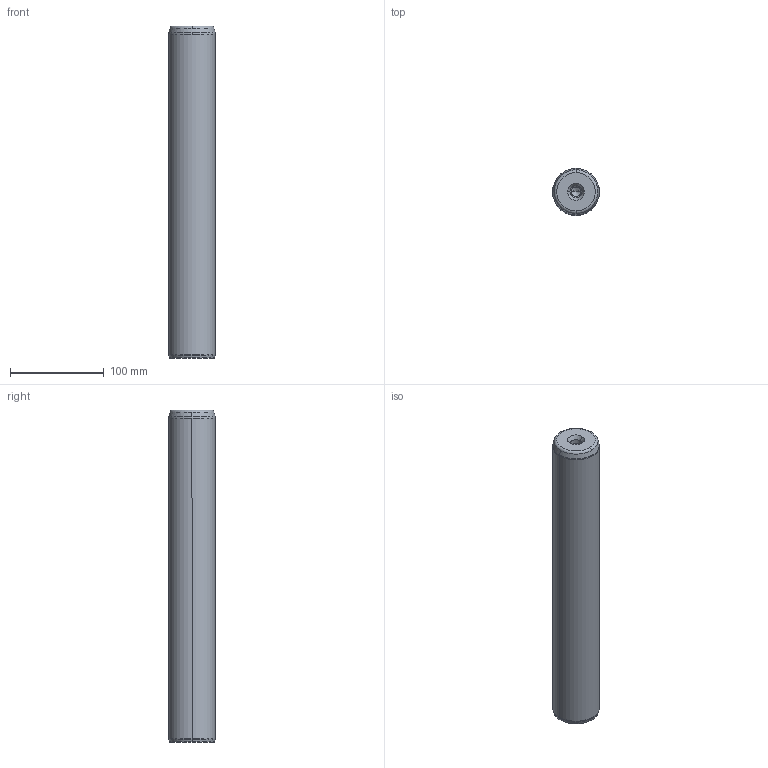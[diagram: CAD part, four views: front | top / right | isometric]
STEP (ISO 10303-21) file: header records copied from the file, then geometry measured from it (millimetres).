
FILE_DESCRIPTION((''),'2;1');
FILE_NAME('P10_050_355.stp','2008-12-23T16:14:39',(''),(''),'Mechanical Desktop 2009','Mechanical Desktop 2009',', , ');
FILE_SCHEMA(('CONFIG_CONTROL_DESIGN'));
Length unit declared in the file: millimetre
Products named in the file (5): Product; ProductAA; blmdl1; ProductA; blmdl1A
Assembly tree (2 placements, depth 3):
  Product
    ProductAA
      blmdl1
  ProductA
  blmdl1A
Bounding box: 50 x 50 x 355 mm (x, y, z)
Volume: 691403.6 mm3; surface area: 60326.4 mm2
Topology: 1 solids, 1 shells, 26 faces, 66 edges, 41 vertices
Faces by surface type: cone 10, torus 8, cylinder 6, plane 2
Entity records: 1012 total; most frequent: DIRECTION 170, CARTESIAN_POINT 134, ORIENTED_EDGE 128, AXIS2_PLACEMENT_3D 77, EDGE_CURVE 64, CIRCLE 48, VERTEX_POINT 41, EDGE_LOOP 27
